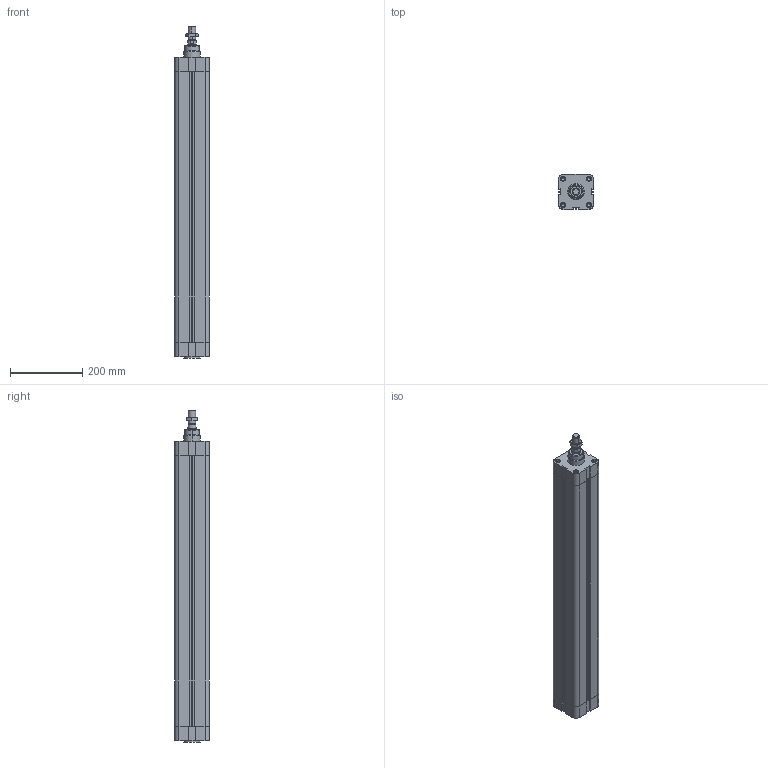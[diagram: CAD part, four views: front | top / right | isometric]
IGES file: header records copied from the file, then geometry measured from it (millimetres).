
Global section: file name: No Iges File Name specified; native system: Autodesk Inventor 2010; preprocessor: AutoDesk Inventor Iges Exporter R2010; author: rivolro1; date: 20090707.103512; units: millimetre
Bounding box: 95.5 x 95.5 x 918 mm (x, y, z)
Volume: 4192331.3 mm3; surface area: 694108.3 mm2
Topology: 5 solids, 5 shells, 290 faces, 694 edges, 440 vertices
Faces by surface type: plane 120, bspline 74, cylinder 40, revolution 34, cone 20, torus 2
